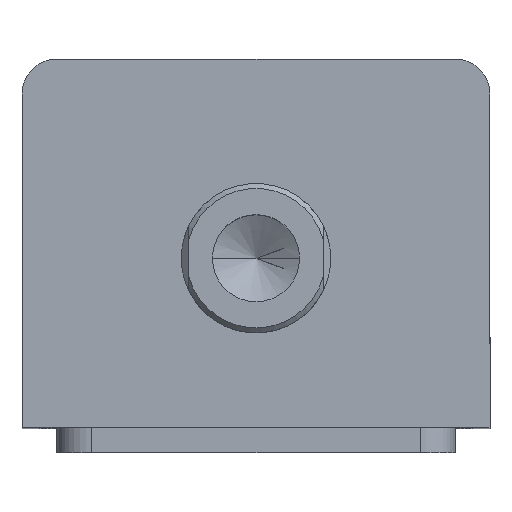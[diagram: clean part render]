
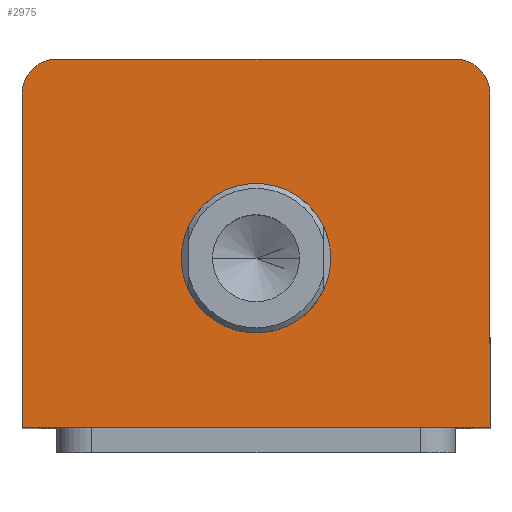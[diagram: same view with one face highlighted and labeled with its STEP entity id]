
A CAD part, top view. The second image highlights one B-rep face of the part: STEP entity #2975.
In plain terms, the highlighted planar face has unit normal (0, 0, 1).
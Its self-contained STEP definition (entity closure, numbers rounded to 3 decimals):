
#1 = VERTEX_POINT ( 'NONE', #1779 ) ;
#75 = ORIENTED_EDGE ( 'NONE', *, *, #2338, .T. ) ;
#76 = ORIENTED_EDGE ( 'NONE', *, *, #451, .T. ) ;
#77 = ORIENTED_EDGE ( 'NONE', *, *, #488, .T. ) ;
#78 = ORIENTED_EDGE ( 'NONE', *, *, #766, .T. ) ;
#79 = ORIENTED_EDGE ( 'NONE', *, *, #780, .T. ) ;
#80 = ORIENTED_EDGE ( 'NONE', *, *, #2345, .T. ) ;
#81 = ORIENTED_EDGE ( 'NONE', *, *, #412, .F. ) ;
#82 = ORIENTED_EDGE ( 'NONE', *, *, #772, .F. ) ;
#266 = CIRCLE ( 'NONE', #1952, 15. ) ;
#314 = LINE ( 'NONE', #1655, #317 ) ;
#317 = VECTOR ( 'NONE', #1653, 1000. ) ;
#338 = VERTEX_POINT ( 'NONE', #1762 ) ;
#412 = EDGE_CURVE ( 'NONE', #2039, #2054, #266, .T. ) ;
#451 = EDGE_CURVE ( 'NONE', #1, #2068, #314, .T. ) ;
#488 = EDGE_CURVE ( 'NONE', #2021, #1, #2694, .T. ) ;
#537 = FACE_BOUND ( 'NONE', #1269, .T. ) ;
#542 = FACE_OUTER_BOUND ( 'NONE', #1238, .T. ) ;
#766 = EDGE_CURVE ( 'NONE', #2041, #2021, #2707, .T. ) ;
#772 = EDGE_CURVE ( 'NONE', #2054, #2039, #2718, .T. ) ;
#780 = EDGE_CURVE ( 'NONE', #338, #2041, #2730, .T. ) ;
#861 = DIRECTION ( 'NONE',  ( -1., 0., 0. ) ) ;
#862 = CARTESIAN_POINT ( 'NONE',  ( -47., 37., 110. ) ) ;
#875 = DIRECTION ( 'NONE',  ( 1., 0., 0. ) ) ;
#876 = DIRECTION ( 'NONE',  ( 0., 0., 1. ) ) ;
#877 = CARTESIAN_POINT ( 'NONE',  ( 40., 30., 110. ) ) ;
#1071 = CARTESIAN_POINT ( 'NONE',  ( 40., 37., 110. ) ) ;
#1084 = CARTESIAN_POINT ( 'NONE',  ( 47., 30., 110. ) ) ;
#1099 = CARTESIAN_POINT ( 'NONE',  ( 15., -3., 110. ) ) ;
#1114 = CARTESIAN_POINT ( 'NONE',  ( -47., 30., 110. ) ) ;
#1118 = CARTESIAN_POINT ( 'NONE',  ( -15., -3., 110. ) ) ;
#1140 = CARTESIAN_POINT ( 'NONE',  ( -47., -37., 110. ) ) ;
#1238 = EDGE_LOOP ( 'NONE', ( #80, #79, #78, #77, #76, #75 ) ) ;
#1269 = EDGE_LOOP ( 'NONE', ( #82, #81 ) ) ;
#1494 = DIRECTION ( 'NONE',  ( 1., 0., 0. ) ) ;
#1495 = DIRECTION ( 'NONE',  ( 0., 0., 1. ) ) ;
#1496 = CARTESIAN_POINT ( 'NONE',  ( -40., 30., 110. ) ) ;
#1525 = DIRECTION ( 'NONE',  ( 1., 0., 0. ) ) ;
#1526 = DIRECTION ( 'NONE',  ( 0., 0., 1. ) ) ;
#1527 = CARTESIAN_POINT ( 'NONE',  ( 0., -3., 110. ) ) ;
#1542 = DIRECTION ( 'NONE',  ( 0., -1., 0. ) ) ;
#1555 = CARTESIAN_POINT ( 'NONE',  ( -47., 37., 110. ) ) ;
#1576 = DIRECTION ( 'NONE',  ( 1., 0., 0. ) ) ;
#1586 = CARTESIAN_POINT ( 'NONE',  ( -47., -37., 110. ) ) ;
#1653 = DIRECTION ( 'NONE',  ( 0., 1., 0. ) ) ;
#1655 = CARTESIAN_POINT ( 'NONE',  ( 47., 37., 110. ) ) ;
#1752 = DIRECTION ( 'NONE',  ( 1., 0., 0. ) ) ;
#1754 = DIRECTION ( 'NONE',  ( 0., 0., 1. ) ) ;
#1755 = CARTESIAN_POINT ( 'NONE',  ( 0., -3., 110. ) ) ;
#1762 = CARTESIAN_POINT ( 'NONE',  ( -40., 37., 110. ) ) ;
#1779 = CARTESIAN_POINT ( 'NONE',  ( 47., -37., 110. ) ) ;
#1790 = AXIS2_PLACEMENT_3D ( 'NONE', #2498, #2494, #2493 ) ;
#1854 = AXIS2_PLACEMENT_3D ( 'NONE', #877, #876, #875 ) ;
#1919 = AXIS2_PLACEMENT_3D ( 'NONE', #1496, #1495, #1494 ) ;
#1925 = AXIS2_PLACEMENT_3D ( 'NONE', #1527, #1526, #1525 ) ;
#1952 = AXIS2_PLACEMENT_3D ( 'NONE', #1755, #1754, #1752 ) ;
#2021 = VERTEX_POINT ( 'NONE', #1140 ) ;
#2039 = VERTEX_POINT ( 'NONE', #1118 ) ;
#2041 = VERTEX_POINT ( 'NONE', #1114 ) ;
#2054 = VERTEX_POINT ( 'NONE', #1099 ) ;
#2068 = VERTEX_POINT ( 'NONE', #1084 ) ;
#2079 = VERTEX_POINT ( 'NONE', #1071 ) ;
#2338 = EDGE_CURVE ( 'NONE', #2068, #2079, #2889, .T. ) ;
#2345 = EDGE_CURVE ( 'NONE', #2079, #338, #2899, .T. ) ;
#2493 = DIRECTION ( 'NONE',  ( 1., 0., 0. ) ) ;
#2494 = DIRECTION ( 'NONE',  ( 0., 0., 1. ) ) ;
#2496 = PLANE ( 'NONE',  #1790 ) ;
#2498 = CARTESIAN_POINT ( 'NONE',  ( 0., 0., 110. ) ) ;
#2694 = LINE ( 'NONE', #1586, #2701 ) ;
#2701 = VECTOR ( 'NONE', #1576, 1000. ) ;
#2707 = LINE ( 'NONE', #1555, #2709 ) ;
#2709 = VECTOR ( 'NONE', #1542, 1000. ) ;
#2718 = CIRCLE ( 'NONE', #1925, 15. ) ;
#2730 = CIRCLE ( 'NONE', #1919, 7. ) ;
#2889 = CIRCLE ( 'NONE', #1854, 7. ) ;
#2899 = LINE ( 'NONE', #862, #2901 ) ;
#2901 = VECTOR ( 'NONE', #861, 1000. ) ;
#2975 = ADVANCED_FACE ( 'NONE', ( #537, #542 ), #2496, .T. ) ;
